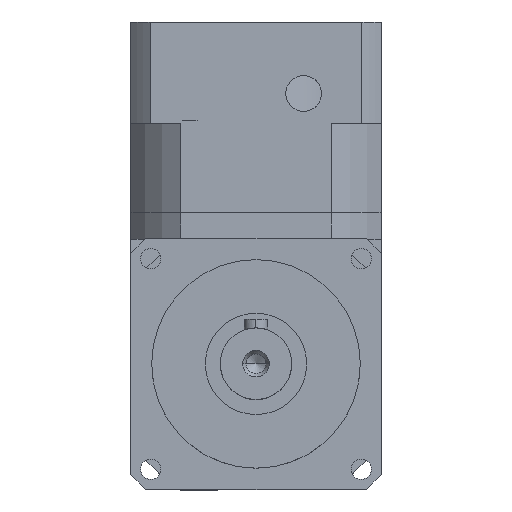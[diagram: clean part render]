
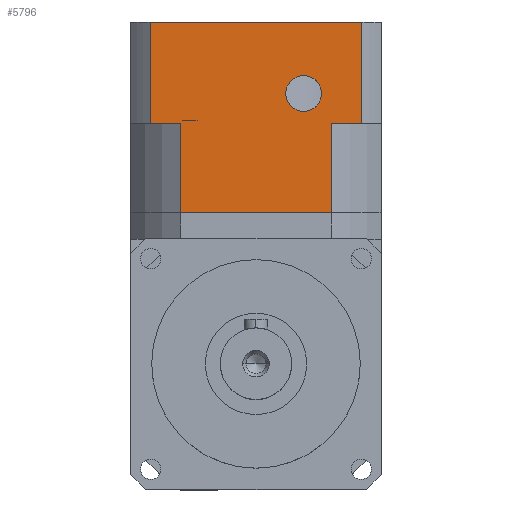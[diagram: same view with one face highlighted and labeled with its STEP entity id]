
A CAD part, top view. The second image highlights one B-rep face of the part: STEP entity #5796.
In plain terms, the highlighted planar face has unit normal (0, 0, 1) as drawn and (0, 1, 0) by its records, which use the part's own axes.
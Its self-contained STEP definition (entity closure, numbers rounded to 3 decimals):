
#31 = CARTESIAN_POINT ( 'NONE',  ( -12.619, 21., 32. ) ) ;
#88 = CARTESIAN_POINT ( 'NONE',  ( 12.619, 21., 32. ) ) ;
#215 = LINE ( 'NONE', #6736, #7448 ) ;
#285 = CARTESIAN_POINT ( 'NONE',  ( -21., 21., 17. ) ) ;
#511 = LINE ( 'NONE', #4624, #8325 ) ;
#784 = ORIENTED_EDGE ( 'NONE', *, *, #2177, .F. ) ;
#902 = VERTEX_POINT ( 'NONE', #88 ) ;
#998 = CIRCLE ( 'NONE', #7249, 3. ) ;
#1300 = CARTESIAN_POINT ( 'NONE',  ( 12.619, 21., 17. ) ) ;
#1310 = ORIENTED_EDGE ( 'NONE', *, *, #2214, .F. ) ;
#1648 = CARTESIAN_POINT ( 'NONE',  ( -12.619, 21., 17. ) ) ;
#1783 = CARTESIAN_POINT ( 'NONE',  ( 17.755, 21., 32. ) ) ;
#1834 = CARTESIAN_POINT ( 'NONE',  ( 8., 21., 12. ) ) ;
#1889 = VECTOR ( 'NONE', #7648, 1000. ) ;
#1896 = DIRECTION ( 'NONE',  ( -1., 0., 0. ) ) ;
#1919 = CARTESIAN_POINT ( 'NONE',  ( 17.755, 21., 17. ) ) ;
#2177 = EDGE_CURVE ( 'NONE', #902, #9606, #5347, .T. ) ;
#2214 = EDGE_CURVE ( 'NONE', #9606, #5291, #7212, .T. ) ;
#2220 = DIRECTION ( 'NONE',  ( 0., 0., 1. ) ) ;
#2254 = VECTOR ( 'NONE', #8570, 1000. ) ;
#2383 = EDGE_CURVE ( 'NONE', #5291, #5102, #511, .T. ) ;
#2639 = EDGE_CURVE ( 'NONE', #7554, #4872, #9122, .T. ) ;
#2937 = VECTOR ( 'NONE', #10424, 1000. ) ;
#3126 = CARTESIAN_POINT ( 'NONE',  ( 8., 21., 15. ) ) ;
#3190 = DIRECTION ( 'NONE',  ( 0., 1., 0. ) ) ;
#3262 = VERTEX_POINT ( 'NONE', #4077 ) ;
#3299 = CARTESIAN_POINT ( 'NONE',  ( 12.619, 21., 17. ) ) ;
#3522 = ORIENTED_EDGE ( 'NONE', *, *, #4377, .F. ) ;
#3667 = VERTEX_POINT ( 'NONE', #3126 ) ;
#3854 = CARTESIAN_POINT ( 'NONE',  ( 8., 21., 12. ) ) ;
#3855 = VECTOR ( 'NONE', #7247, 1000. ) ;
#3950 = PLANE ( 'NONE',  #8252 ) ;
#4017 = LINE ( 'NONE', #3299, #3855 ) ;
#4077 = CARTESIAN_POINT ( 'NONE',  ( 8., 21., 9. ) ) ;
#4254 = EDGE_LOOP ( 'NONE', ( #10283, #3522 ) ) ;
#4377 = EDGE_CURVE ( 'NONE', #3262, #3667, #998, .T. ) ;
#4421 = LINE ( 'NONE', #6879, #1889 ) ;
#4624 = CARTESIAN_POINT ( 'NONE',  ( -21., 21., 17. ) ) ;
#4652 = ORIENTED_EDGE ( 'NONE', *, *, #7836, .F. ) ;
#4777 = EDGE_CURVE ( 'NONE', #4872, #902, #4017, .T. ) ;
#4861 = ORIENTED_EDGE ( 'NONE', *, *, #4777, .F. ) ;
#4872 = VERTEX_POINT ( 'NONE', #1300 ) ;
#4894 = FACE_BOUND ( 'NONE', #4254, .T. ) ;
#5037 = DIRECTION ( 'NONE',  ( 0., 1., 0. ) ) ;
#5079 = EDGE_CURVE ( 'NONE', #3667, #3262, #7586, .T. ) ;
#5102 = VERTEX_POINT ( 'NONE', #7273 ) ;
#5291 = VERTEX_POINT ( 'NONE', #10373 ) ;
#5347 = LINE ( 'NONE', #7005, #2254 ) ;
#5361 = ORIENTED_EDGE ( 'NONE', *, *, #2383, .F. ) ;
#5549 = DIRECTION ( 'NONE',  ( 0., 0., -1. ) ) ;
#5739 = AXIS2_PLACEMENT_3D ( 'NONE', #1834, #5037, #8264 ) ;
#5796 = ADVANCED_FACE ( 'NONE', ( #10408, #4894 ), #3950, .F. ) ;
#6623 = DIRECTION ( 'NONE',  ( 1., 0., 0. ) ) ;
#6655 = ORIENTED_EDGE ( 'NONE', *, *, #2639, .F. ) ;
#6691 = DIRECTION ( 'NONE',  ( 0., 0., 1. ) ) ;
#6736 = CARTESIAN_POINT ( 'NONE',  ( -21., 21., 0. ) ) ;
#6799 = ORIENTED_EDGE ( 'NONE', *, *, #7316, .F. ) ;
#6879 = CARTESIAN_POINT ( 'NONE',  ( -17.755, 21., 32. ) ) ;
#7005 = CARTESIAN_POINT ( 'NONE',  ( 0., 21., 32. ) ) ;
#7212 = LINE ( 'NONE', #1648, #2937 ) ;
#7247 = DIRECTION ( 'NONE',  ( 0., 0., 1. ) ) ;
#7249 = AXIS2_PLACEMENT_3D ( 'NONE', #3854, #3190, #2220 ) ;
#7273 = CARTESIAN_POINT ( 'NONE',  ( -17.755, 21., 17. ) ) ;
#7316 = EDGE_CURVE ( 'NONE', #8249, #7554, #7374, .T. ) ;
#7374 = LINE ( 'NONE', #1783, #8351 ) ;
#7448 = VECTOR ( 'NONE', #6623, 1000. ) ;
#7554 = VERTEX_POINT ( 'NONE', #1919 ) ;
#7586 = CIRCLE ( 'NONE', #5739, 3. ) ;
#7648 = DIRECTION ( 'NONE',  ( 0., 0., -1. ) ) ;
#7836 = EDGE_CURVE ( 'NONE', #5102, #9748, #4421, .T. ) ;
#7992 = VECTOR ( 'NONE', #1896, 1000. ) ;
#8218 = EDGE_CURVE ( 'NONE', #9748, #8249, #215, .T. ) ;
#8249 = VERTEX_POINT ( 'NONE', #9106 ) ;
#8252 = AXIS2_PLACEMENT_3D ( 'NONE', #8812, #9611, #5549 ) ;
#8264 = DIRECTION ( 'NONE',  ( 0., 0., 1. ) ) ;
#8325 = VECTOR ( 'NONE', #8599, 1000. ) ;
#8351 = VECTOR ( 'NONE', #6691, 1000. ) ;
#8492 = EDGE_LOOP ( 'NONE', ( #4861, #6655, #6799, #9860, #4652, #5361, #1310, #784 ) ) ;
#8570 = DIRECTION ( 'NONE',  ( -1., 0., 0. ) ) ;
#8599 = DIRECTION ( 'NONE',  ( -1., 0., 0. ) ) ;
#8812 = CARTESIAN_POINT ( 'NONE',  ( -21., 21., 32. ) ) ;
#9106 = CARTESIAN_POINT ( 'NONE',  ( 17.755, 21., 0. ) ) ;
#9122 = LINE ( 'NONE', #285, #7992 ) ;
#9606 = VERTEX_POINT ( 'NONE', #31 ) ;
#9611 = DIRECTION ( 'NONE',  ( 0., -1., 0. ) ) ;
#9748 = VERTEX_POINT ( 'NONE', #10103 ) ;
#9860 = ORIENTED_EDGE ( 'NONE', *, *, #8218, .F. ) ;
#10103 = CARTESIAN_POINT ( 'NONE',  ( -17.755, 21., 0. ) ) ;
#10283 = ORIENTED_EDGE ( 'NONE', *, *, #5079, .F. ) ;
#10373 = CARTESIAN_POINT ( 'NONE',  ( -12.619, 21., 17. ) ) ;
#10408 = FACE_OUTER_BOUND ( 'NONE', #8492, .T. ) ;
#10424 = DIRECTION ( 'NONE',  ( 0., 0., -1. ) ) ;
